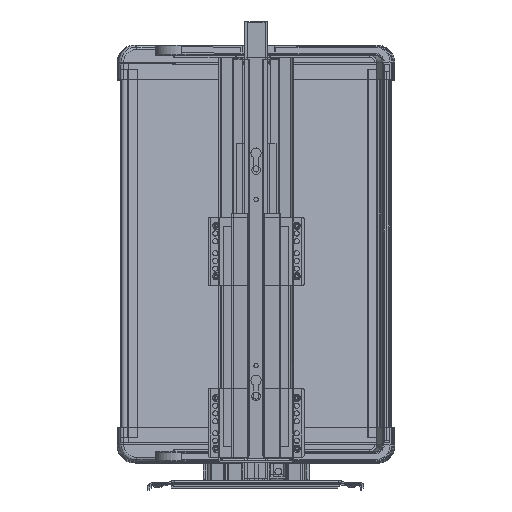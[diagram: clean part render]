
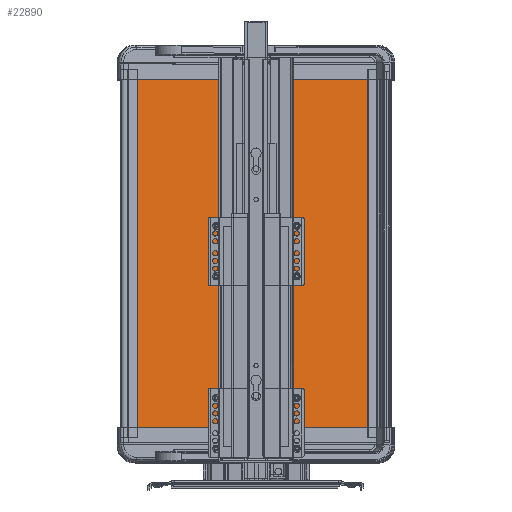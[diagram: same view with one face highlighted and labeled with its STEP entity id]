
A CAD part, top view. The second image highlights one B-rep face of the part: STEP entity #22890.
In plain terms, the highlighted planar face has unit normal (0.225, 0, 0.974) as drawn and (0, 0, 1) by its records, which use the part's own axes.
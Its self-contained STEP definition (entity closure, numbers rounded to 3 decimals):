
#1509=LINE('',#37763,#3517);
#1513=LINE('',#37771,#3521);
#1516=LINE('',#37777,#3524);
#1518=LINE('',#37780,#3526);
#3517=VECTOR('',#30477,1000.);
#3521=VECTOR('',#30483,1000.);
#3524=VECTOR('',#30488,1000.);
#3526=VECTOR('',#30492,1000.);
#5394=PLANE('',#25303);
#9662=ORIENTED_EDGE('',*,*,#13651,.F.);
#9663=ORIENTED_EDGE('',*,*,#13655,.T.);
#9664=ORIENTED_EDGE('',*,*,#13658,.T.);
#9665=ORIENTED_EDGE('',*,*,#13660,.F.);
#13651=EDGE_CURVE('',#16038,#16039,#1509,.T.);
#13655=EDGE_CURVE('',#16038,#16041,#1513,.T.);
#13658=EDGE_CURVE('',#16041,#16043,#1516,.T.);
#13660=EDGE_CURVE('',#16039,#16043,#1518,.T.);
#16038=VERTEX_POINT('',#37762);
#16039=VERTEX_POINT('',#37764);
#16041=VERTEX_POINT('',#37770);
#16043=VERTEX_POINT('',#37776);
#19026=EDGE_LOOP('',(#9662,#9663,#9664,#9665));
#21019=FACE_BOUND('',#19026,.T.);
#22890=ADVANCED_FACE('',(#21019),#5394,.T.);
#25303=AXIS2_PLACEMENT_3D('',#37781,#30493,#30494);
#30477=DIRECTION('',(-1.,0.,0.));
#30483=DIRECTION('',(0.,1.,0.));
#30488=DIRECTION('',(-1.,0.,0.));
#30492=DIRECTION('',(0.,1.,0.));
#30493=DIRECTION('',(0.,0.,1.));
#30494=DIRECTION('',(1.,0.,0.));
#37762=CARTESIAN_POINT('',(221.,-148.,6.));
#37763=CARTESIAN_POINT('',(0.,-148.,6.));
#37764=CARTESIAN_POINT('',(-221.,-148.,6.));
#37770=CARTESIAN_POINT('',(221.,148.,6.));
#37771=CARTESIAN_POINT('',(221.,0.,6.));
#37776=CARTESIAN_POINT('',(-221.,148.,6.));
#37777=CARTESIAN_POINT('',(0.,148.,6.));
#37780=CARTESIAN_POINT('',(-221.,0.,6.));
#37781=CARTESIAN_POINT('',(0.,0.,6.));
